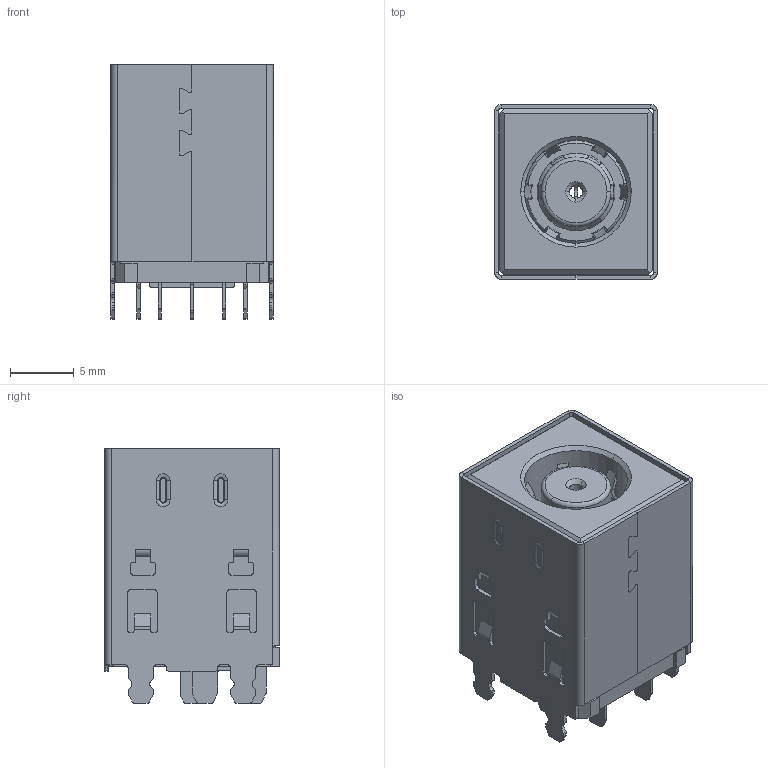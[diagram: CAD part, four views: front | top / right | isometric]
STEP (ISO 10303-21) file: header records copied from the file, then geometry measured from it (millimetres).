
FILE_DESCRIPTION (( 'STEP AP203' ), '1' );
FILE_NAME ('DC-S015A-D010-25A.STEP', '2023-07-14T11:47:03', ( '' ), ( '' ), 'SwSTEP 2.0', 'SolidWorks 2023', '' );
FILE_SCHEMA (( 'CONFIG_CONTROL_DESIGN' ));
Length unit declared in the file: millimetre
Products named in the file (3): DC-S015A-D010-25A; DC-S015A-D010-25A(2)^DC-S015A-D010-25A; HOUSING-0289^DC-S015A-D010-25A(2)_DC-S015A-D010-25A
Assembly tree (2 placements, depth 3):
  DC-S015A-D010-25A
    DC-S015A-D010-25A(2)^DC-S015A-D010-25A
      HOUSING-0289^DC-S015A-D010-25A(2)_DC-S015A-D010-25A
Bounding box: 12.7 x 13.65 x 19.9 mm (x, y, z)
Volume: 2605.4 mm3; surface area: 3970.2 mm2
Topology: 1 solids, 3 shells, 1128 faces, 3110 edges, 1990 vertices
Faces by surface type: plane 582, cylinder 260, bspline 144, cone 74, torus 68
Entity records: 41959 total; most frequent: CARTESIAN_POINT 13298, ORIENTED_EDGE 6220, DIRECTION 5494, EDGE_CURVE 3110, VECTOR 2010, LINE 2010, VERTEX_POINT 1990, AXIS2_PLACEMENT_3D 1742
